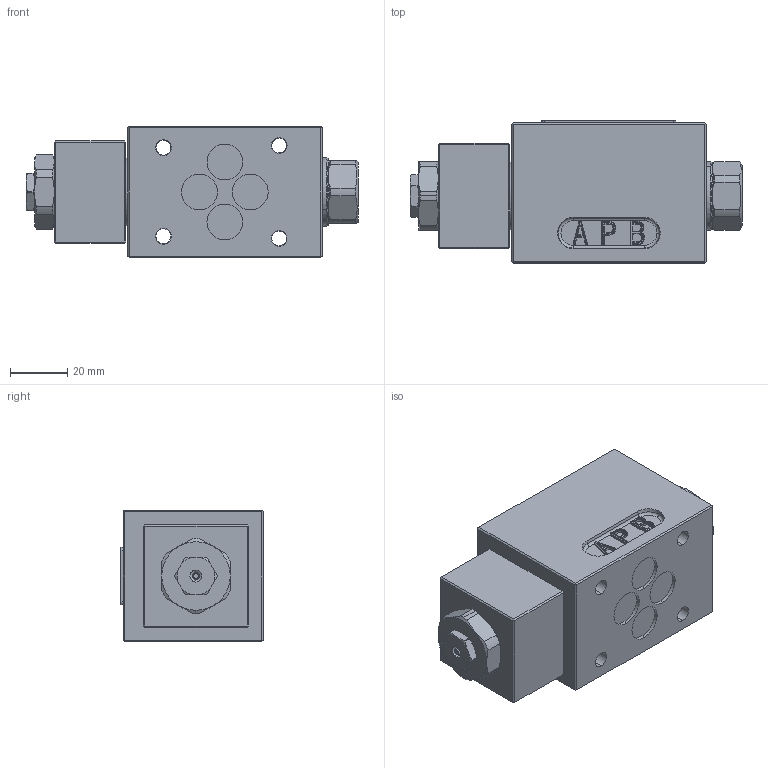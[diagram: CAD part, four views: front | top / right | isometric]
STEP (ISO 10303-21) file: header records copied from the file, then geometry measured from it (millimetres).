
FILE_DESCRIPTION (( 'STEP AP214' ), '1' );
FILE_NAME ('WFAFA06-..1.STEP', '2022-07-05T10:04:40', ( '' ), ( '' ), 'SwSTEP 2.0', 'SolidWorks 2020', '' );
FILE_SCHEMA (( 'AUTOMOTIVE_DESIGN' ));
Length unit declared in the file: millimetre
Products named in the file (1): WFAFA06-..1
Bounding box: 116.2 x 49.8 x 46 mm (x, y, z)
Volume: 188309.7 mm3; surface area: 29134 mm2
Topology: 1 solids, 1 shells, 461 faces, 1109 edges, 674 vertices
Faces by surface type: plane 168, cylinder 157, cone 54, bspline 36, torus 28, sphere 18
Entity records: 20322 total; most frequent: CARTESIAN_POINT 4711, DIRECTION 2194, ORIENTED_EDGE 2184, EDGE_CURVE 1092, AXIS2_PLACEMENT_3D 840, VERTEX_POINT 674, LINE 514, VECTOR 514
